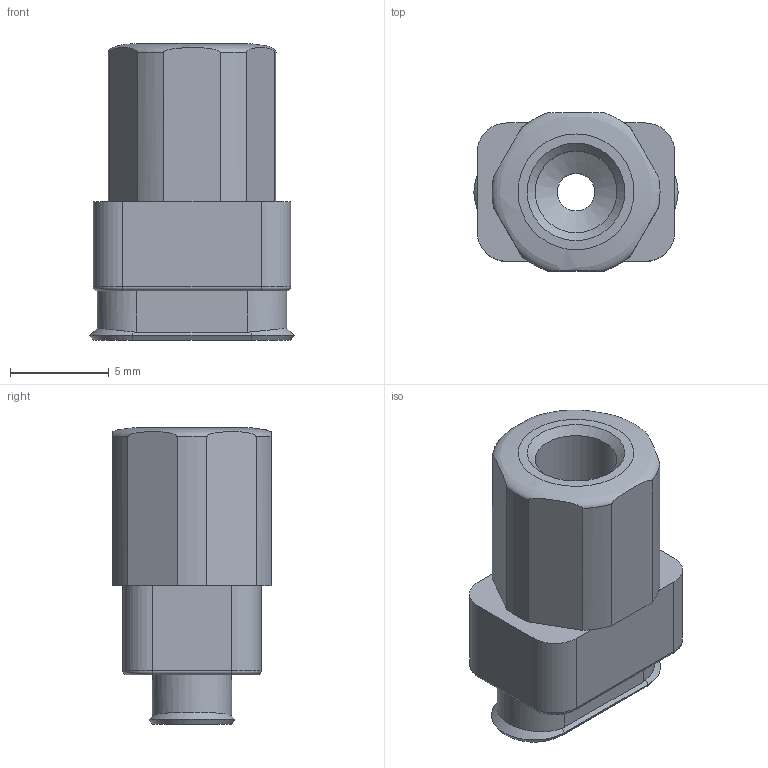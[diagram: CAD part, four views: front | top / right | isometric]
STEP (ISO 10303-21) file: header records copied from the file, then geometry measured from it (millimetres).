
FILE_DESCRIPTION( ( 'Unknown' ), '1' );
FILE_NAME( 'D:/New PAD/PAD-VOU/Part/STEP/VOU 4X10_M5F.stp', 'Unknown', ( 'Unknown' ), ( 'Unknown' ), 'XStep 1.0', 'Unknown', ' ' );
FILE_SCHEMA( ( 'automotive_design' ) );
Length unit declared in the file: millimetre
Products named in the file (1): 4X10_STP
Bounding box: 10.33 x 8 x 15 mm (x, y, z)
Volume: 696.4 mm3; surface area: 685.7 mm2
Topology: 1 solids, 1 shells, 56 faces, 141 edges, 88 vertices
Faces by surface type: plane 25, cylinder 20, cone 6, torus 4, revolution 1
Full cylindrical faces by diameter (mm): 1.9 x1, 3 x1, 4.134 x2
Entity records: 2252 total; most frequent: CARTESIAN_POINT 472, DIRECTION 291, ORIENTED_EDGE 258, EDGE_CURVE 129, AXIS2_PLACEMENT_3D 113, VERTEX_POINT 83, EDGE_LOOP 66, LINE 64
